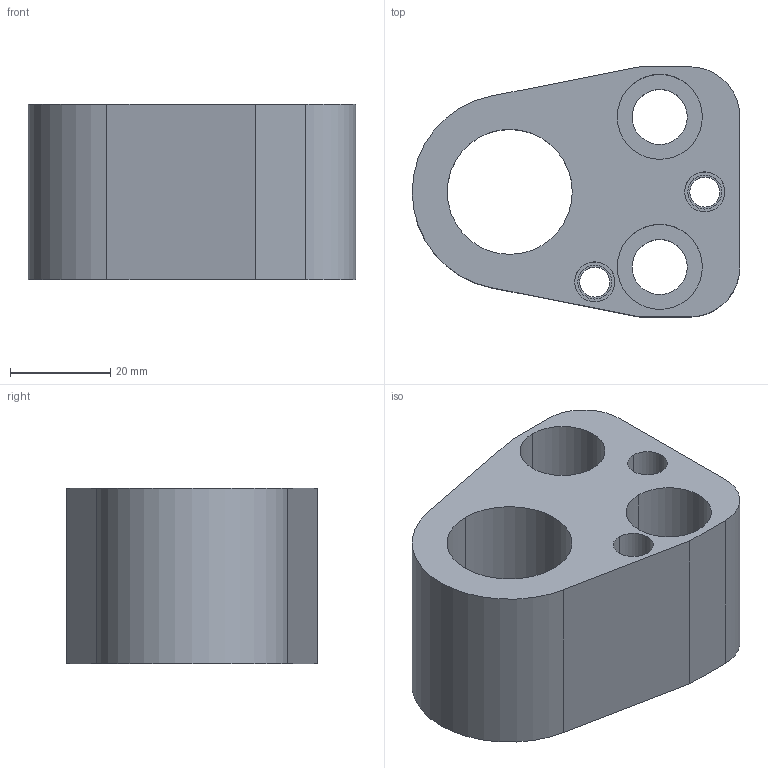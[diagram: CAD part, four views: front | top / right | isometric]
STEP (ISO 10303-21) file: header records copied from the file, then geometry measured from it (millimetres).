
FILE_DESCRIPTION(/* description */ (''),/* implementation_level */ '2;1');
FILE_NAME(/* name */ '3d_hap-an25_03999_r00.stp',/* time_stamp */ '2011-01-10T14:14:59+09:00',/* author */ ('MISUMI'),/* organization */ (''),/* preprocessor_version */ 'ST-DEVELOPER v11',/* originating_system */ 'UGS - NX 5.0',/* authorisation */ '');
FILE_SCHEMA (('CONFIG_CONTROL_DESIGN'));
Length unit declared in the file: millimetre
Products named in the file (1): 3d_hap-an25_03999_r00
Bounding box: 65.5 x 50 x 35 mm (x, y, z)
Volume: 61476.8 mm3; surface area: 18373.6 mm2
Topology: 1 solids, 1 shells, 43 faces, 100 edges, 66 vertices
Faces by surface type: cylinder 27, plane 14, cone 2
Entity records: 1360 total; most frequent: DIRECTION 244, CARTESIAN_POINT 210, ORIENTED_EDGE 200, EDGE_CURVE 100, AXIS2_PLACEMENT_3D 100, VERTEX_POINT 66, EDGE_LOOP 60, CIRCLE 56
